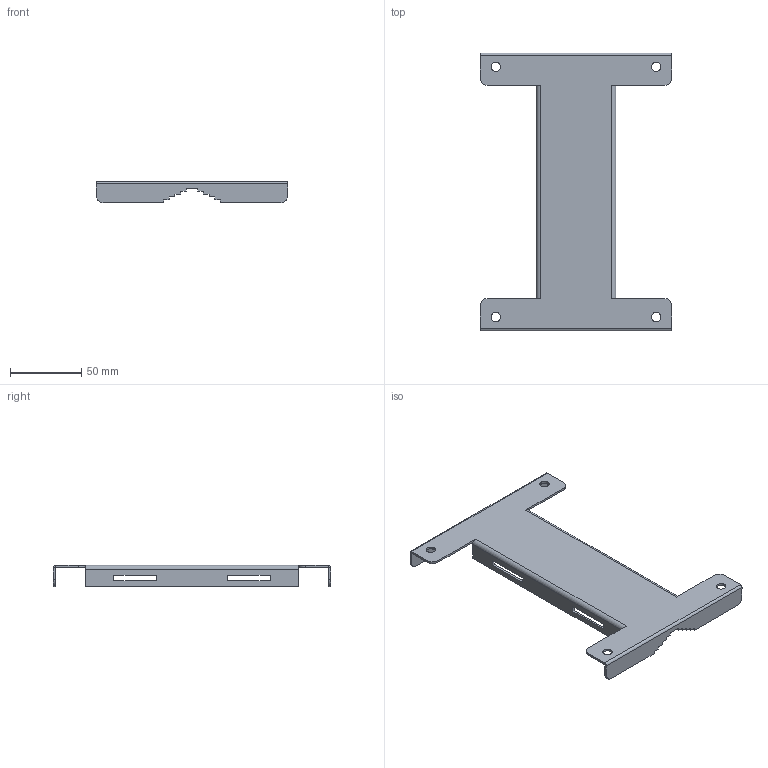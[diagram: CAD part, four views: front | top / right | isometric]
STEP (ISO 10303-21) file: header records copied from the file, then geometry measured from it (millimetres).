
FILE_DESCRIPTION(('STEP AP242'), '1');
FILE_NAME('ﾋﾊﾆﾑ.745512.008 ﾊ煇鳫 ﾁﾑ', '2023-04-25T12:42:14', ('initial'), (''), 'C3D Converter', 'C3D Toolkit', '');
FILE_SCHEMA(('AP242_MANAGED_MODEL_BASED_3D_ENGINEERING_MIM_LF { 1 0 10303 442 1 1 4 }'));
Length unit declared in the file: millimetre
Products named in the file (1): ЛКЖС.745512.008
Bounding box: 135 x 195.4 x 15 mm (x, y, z)
Volume: 31026.6 mm3; surface area: 43353.5 mm2
Topology: 1 solids, 1 shells, 114 faces, 304 edges, 192 vertices
Faces by surface type: plane 94, cylinder 20
Full cylindrical faces by diameter (mm): 6.6 x4
Entity records: 4431 total; most frequent: CARTESIAN_POINT 607, ORIENTED_EDGE 600, DIRECTION 570, EDGE_CURVE 300, LINE 260, VECTOR 260, VERTEX_POINT 192, AXIS2_PLACEMENT_3D 155
